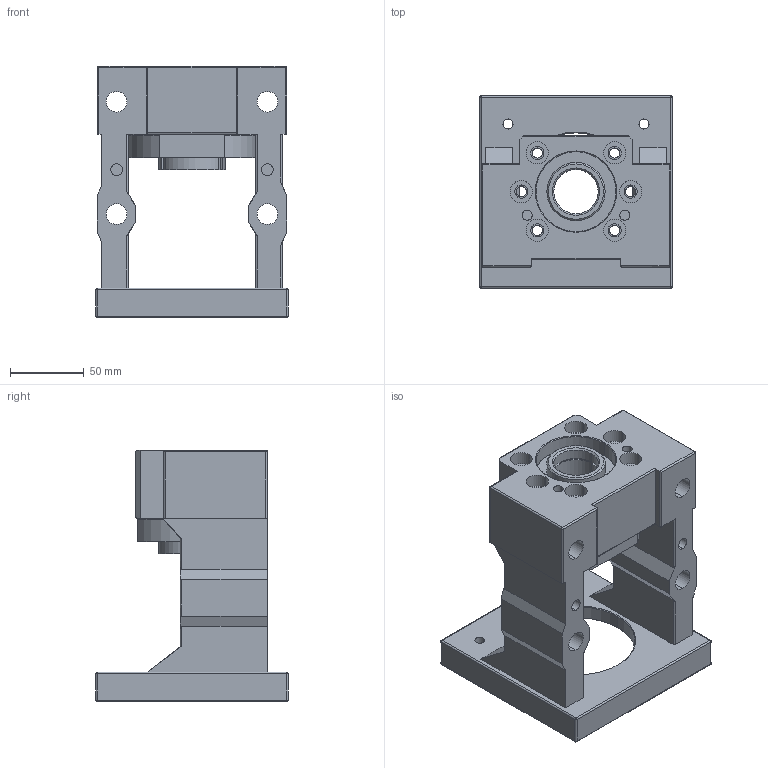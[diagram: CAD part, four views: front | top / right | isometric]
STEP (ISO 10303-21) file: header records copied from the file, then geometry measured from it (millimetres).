
FILE_DESCRIPTION((''),'2;1');
FILE_NAME('M116S-BK30-C__ASM','2019-09-26T',('ASUS'),(''),'PRO/ENGINEER BY PARAMETRIC TECHNOLOGY CORPORATION, 2010280','PRO/ENGINEER BY PARAMETRIC TECHNOLOGY CORPORATION, 2010280','');
FILE_SCHEMA(('CONFIG_CONTROL_DESIGN'));
Length unit declared in the file: millimetre
Products named in the file (6): PRT0014; PRT0015; PRT0017; M116S-SBK25-C-01_____; M116S-BK30-C_____________ASM; M116S-BK30-C__ASM
Assembly tree (6 placements, depth 3):
  M116S-BK30-C__ASM
    M116S-BK30-C_____________ASM
      PRT0014
      PRT0015
      PRT0017  x2
      M116S-SBK25-C-01_____
Bounding box: 130 x 130 x 170 mm (x, y, z)
Volume: 857567.2 mm3; surface area: 161488.9 mm2
Topology: 5 solids, 5 shells, 284 faces, 714 edges, 440 vertices
Faces by surface type: cylinder 145, plane 87, cone 34, sphere 12, torus 4, extrusion 2
Entity records: 8499 total; most frequent: CARTESIAN_POINT 1681, DIRECTION 1460, ORIENTED_EDGE 1340, EDGE_CURVE 670, AXIS2_PLACEMENT_3D 555, VERTEX_POINT 424, VECTOR 350, LINE 348
